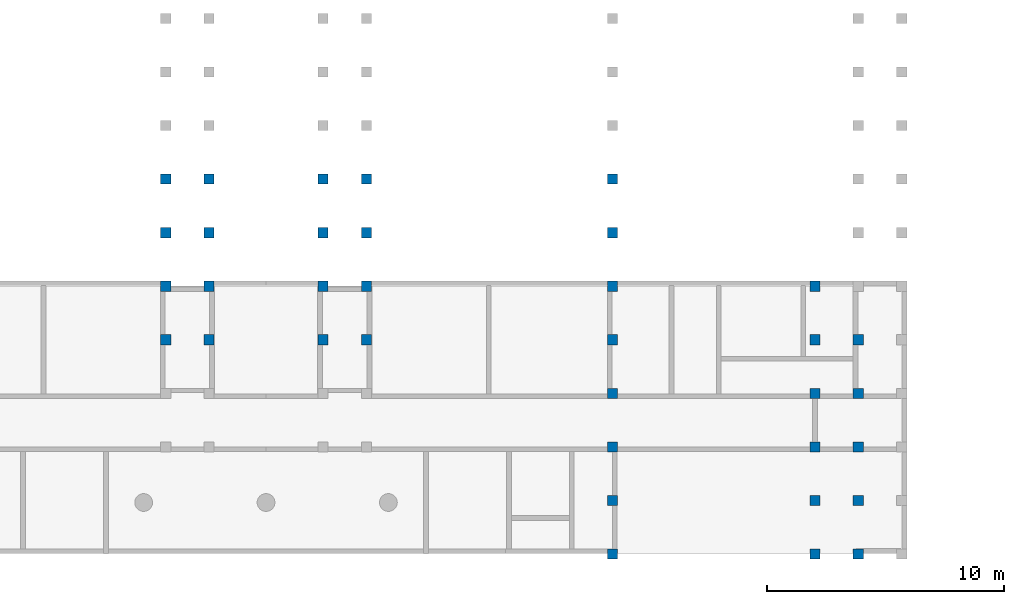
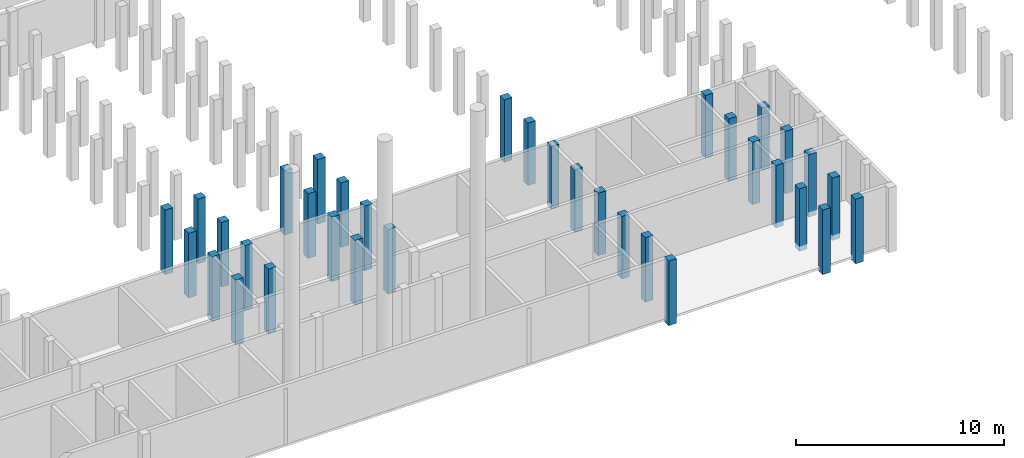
# One storey, part 3 of 9: 35 columns.
"""IFC2X3 building model written with IfcOpenShell, lengths in millimetres."""

from ifc_helpers import new_model, entity, si_unit, converted_unit, derived_unit, direction, frame, frame_2d, origin, origin_2d_with_axis, place, context, subcontext, project, spatial, rectangle, extrude, source, transform, mapped, material, type_object, type_shapes, element, save


model = new_model("IFC2X3")

# Units and contexts
model_context = context("Model", 3, precision=0.01, world=origin(), true_north=direction((6.12303176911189e-17, 1.0)))
body_context = subcontext(model_context, "Body", "Model", "MODEL_VIEW")
ifc_project = project(units=[si_unit("LENGTHUNIT", "METRE", prefix="MILLI"), si_unit("AREAUNIT", "SQUARE_METRE"), si_unit("VOLUMEUNIT", "CUBIC_METRE"), converted_unit("PLANEANGLEUNIT", "DEGREE", entity("IfcRatioMeasure", 0.0174532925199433), si_unit("PLANEANGLEUNIT", "RADIAN"), dimensions=[0, 0, 0, 0, 0, 0, 0]), si_unit("MASSUNIT", "GRAM", prefix="KILO"), derived_unit("MASSDENSITYUNIT", [(si_unit("MASSUNIT", "GRAM", prefix="KILO"), 1), (si_unit("LENGTHUNIT", "METRE"), -3)]), derived_unit("MOMENTOFINERTIAUNIT", [(si_unit("LENGTHUNIT", "METRE"), 4)]), si_unit("TIMEUNIT", "SECOND"), si_unit("FREQUENCYUNIT", "HERTZ"), si_unit("THERMODYNAMICTEMPERATUREUNIT", "DEGREE_CELSIUS"), derived_unit("THERMALTRANSMITTANCEUNIT", [(si_unit("MASSUNIT", "GRAM", prefix="KILO"), 1), (si_unit("THERMODYNAMICTEMPERATUREUNIT", "KELVIN"), -1), (si_unit("TIMEUNIT", "SECOND"), -3)]), derived_unit("VOLUMETRICFLOWRATEUNIT", [(si_unit("LENGTHUNIT", "METRE"), 3), (si_unit("TIMEUNIT", "SECOND"), -1)]), si_unit("ELECTRICCURRENTUNIT", "AMPERE"), si_unit("ELECTRICVOLTAGEUNIT", "VOLT"), si_unit("POWERUNIT", "WATT"), si_unit("FORCEUNIT", "NEWTON", prefix="KILO"), si_unit("ILLUMINANCEUNIT", "LUX"), si_unit("LUMINOUSFLUXUNIT", "LUMEN"), si_unit("LUMINOUSINTENSITYUNIT", "CANDELA"), derived_unit("USERDEFINED", [(si_unit("MASSUNIT", "GRAM", prefix="KILO"), -1), (si_unit("LENGTHUNIT", "METRE"), -2), (si_unit("TIMEUNIT", "SECOND"), 3), (si_unit("LUMINOUSFLUXUNIT", "LUMEN"), 1)]), derived_unit("LINEARVELOCITYUNIT", [(si_unit("LENGTHUNIT", "METRE"), 1), (si_unit("TIMEUNIT", "SECOND"), -1)]), si_unit("PRESSUREUNIT", "PASCAL"), derived_unit("USERDEFINED", [(si_unit("LENGTHUNIT", "METRE"), -2), (si_unit("MASSUNIT", "GRAM", prefix="KILO"), 1), (si_unit("TIMEUNIT", "SECOND"), -2)]), derived_unit("LINEARFORCEUNIT", [(si_unit("MASSUNIT", "GRAM", prefix="KILO"), 1), (si_unit("LENGTHUNIT", "METRE"), 1), (si_unit("TIMEUNIT", "SECOND"), -2), (si_unit("LENGTHUNIT", "METRE"), -1)]), derived_unit("PLANARFORCEUNIT", [(si_unit("MASSUNIT", "GRAM", prefix="KILO"), 1), (si_unit("LENGTHUNIT", "METRE"), 1), (si_unit("TIMEUNIT", "SECOND"), -2), (si_unit("LENGTHUNIT", "METRE"), -2)])], contexts=[model_context])

# Site, building, storey
site_placement = place(None, frame((10627.5135316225, 21939.0796949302, 0.0)))
site = spatial("IfcSite", under=ifc_project, at=site_placement, Name="Default", CompositionType="ELEMENT")
building_placement = place(site_placement, origin())
building = spatial("IfcBuilding", under=site, at=building_placement, CompositionType="ELEMENT")
storey_placement = place(building_placement, frame((0.0, 0.0, -3500.0)))
storey = spatial("IfcBuildingStorey", under=building, at=storey_placement, Name="R-1", CompositionType="ELEMENT", Elevation=-3500.0)

# Columns
ifc_material = material(Name="Concrete, Precast Smooth, Light Grey")
column_type_1 = type_object("IfcColumnType", Name="M_Precast-Square Column:430x430", PredefinedType="COLUMN", material=ifc_material)
shared_shape_1 = source(origin(), body_context, "Body", "SweptSolid", [
    extrude(rectangle(XDim=430.0, YDim=429.999999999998, at=origin_2d_with_axis()), frame((22342.4864683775, -6119.07969493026, -3800.0), z_axis=(0.0, 0.0, 1.0), x_axis=(0.0, -1.0, 0.0)), (0.0, 0.0, 1.0), 3800.0),
])
type_shapes(column_type_1, [shared_shape_1])
column_1_placement = place(storey_placement, frame((0.0, 0.0, 3500.0)))
element("IfcColumn", 1, at=column_1_placement, inside=storey, type_object=column_type_1, material=ifc_material, Name="M_Precast-Square Column:430x430", ObjectType="M_Precast-Square Column:430x430", context=body_context, shape_type="MappedRepresentation", body=[
    mapped(shared_shape_1, transform((0.0, 0.0, 0.0), scale=1.0)),
])
column_type_2 = type_object("IfcColumnType", Name="M_Precast-Square Column:430x430", PredefinedType="COLUMN", material=ifc_material)
shared_shape_2 = source(origin(), body_context, "Body", "SweptSolid", [
    extrude(rectangle(XDim=430.0, YDim=429.999999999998, at=origin_2d_with_axis()), frame((24172.4864683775, -6119.07969493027, -3800.0), z_axis=(0.0, 0.0, 1.0), x_axis=(0.0, -1.0, 0.0)), (0.0, 0.0, 1.0), 3800.0),
])
type_shapes(column_type_2, [shared_shape_2])
column_2_placement = place(storey_placement, frame((0.0, 0.0, 3500.0)))
element("IfcColumn", 2, at=column_2_placement, inside=storey, type_object=column_type_2, material=ifc_material, Name="M_Precast-Square Column:430x430", ObjectType="M_Precast-Square Column:430x430", context=body_context, shape_type="MappedRepresentation", body=[
    mapped(shared_shape_2, transform((0.0, 0.0, 0.0), scale=1.0)),
])
column_type_3 = type_object("IfcColumnType", Name="M_Precast-Square Column:430x430", PredefinedType="COLUMN", material=ifc_material)
shared_shape_3 = source(origin(), body_context, "Body", "SweptSolid", [
    extrude(rectangle(XDim=430.0, YDim=429.999999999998, at=origin_2d_with_axis()), frame((22342.4864683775, -8379.07969493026, -3800.0), z_axis=(0.0, 0.0, 1.0), x_axis=(0.0, -1.0, 0.0)), (0.0, 0.0, 1.0), 3800.0),
])
type_shapes(column_type_3, [shared_shape_3])
column_3_placement = place(storey_placement, frame((0.0, 0.0, 3500.0)))
element("IfcColumn", 3, at=column_3_placement, inside=storey, type_object=column_type_3, material=ifc_material, Name="M_Precast-Square Column:430x430", ObjectType="M_Precast-Square Column:430x430", context=body_context, shape_type="MappedRepresentation", body=[
    mapped(shared_shape_3, transform((0.0, 0.0, 0.0), scale=1.0)),
])
column_type_4 = type_object("IfcColumnType", Name="M_Precast-Square Column:430x430", PredefinedType="COLUMN", material=ifc_material)
shared_shape_4 = source(origin(), body_context, "Body", "SweptSolid", [
    extrude(rectangle(XDim=430.0, YDim=429.999999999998, at=origin_2d_with_axis()), frame((24172.4864683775, -8379.07969493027, -3800.0), z_axis=(0.0, 0.0, 1.0), x_axis=(0.0, -1.0, 0.0)), (0.0, 0.0, 1.0), 3800.0),
])
type_shapes(column_type_4, [shared_shape_4])
column_4_placement = place(storey_placement, frame((0.0, 0.0, 3500.0)))
element("IfcColumn", 4, at=column_4_placement, inside=storey, type_object=column_type_4, material=ifc_material, Name="M_Precast-Square Column:430x430", ObjectType="M_Precast-Square Column:430x430", context=body_context, shape_type="MappedRepresentation", body=[
    mapped(shared_shape_4, transform((0.0, 0.0, 0.0), scale=1.0)),
])
column_type_5 = type_object("IfcColumnType", Name="M_Precast-Square Column:430x430", PredefinedType="COLUMN", material=ifc_material)
shared_shape_5 = source(origin(), body_context, "Body", "SweptSolid", [
    extrude(rectangle(XDim=430.0, YDim=429.999999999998, at=frame_2d((2.1600499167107e-12, 0.0), x_axis=(1.0, 0.0))), frame((22342.4864683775, -10639.0796949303, -3800.0), z_axis=(0.0, 0.0, 1.0), x_axis=(0.0, -1.0, 0.0)), (0.0, 0.0, 1.0), 3800.0),
])
type_shapes(column_type_5, [shared_shape_5])
column_5_placement = place(storey_placement, frame((0.0, 0.0, 3500.0)))
element("IfcColumn", 5, at=column_5_placement, inside=storey, type_object=column_type_5, material=ifc_material, Name="M_Precast-Square Column:430x430", ObjectType="M_Precast-Square Column:430x430", context=body_context, shape_type="MappedRepresentation", body=[
    mapped(shared_shape_5, transform((0.0, 0.0, 0.0), scale=1.0)),
])
column_type_6 = type_object("IfcColumnType", Name="M_Precast-Square Column:430x430", PredefinedType="COLUMN", material=ifc_material)
shared_shape_6 = source(origin(), body_context, "Body", "SweptSolid", [
    extrude(rectangle(XDim=430.0, YDim=429.999999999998, at=origin_2d_with_axis()), frame((24172.4864683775, -10639.0796949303, -3800.0), z_axis=(0.0, 0.0, 1.0), x_axis=(0.0, -1.0, 0.0)), (0.0, 0.0, 1.0), 3800.0),
])
type_shapes(column_type_6, [shared_shape_6])
column_6_placement = place(storey_placement, frame((0.0, 0.0, 3500.0)))
element("IfcColumn", 6, at=column_6_placement, inside=storey, type_object=column_type_6, material=ifc_material, Name="M_Precast-Square Column:430x430", ObjectType="M_Precast-Square Column:430x430", context=body_context, shape_type="MappedRepresentation", body=[
    mapped(shared_shape_6, transform((0.0, 0.0, 0.0), scale=1.0)),
])
column_type_7 = type_object("IfcColumnType", Name="M_Precast-Square Column:430x430", PredefinedType="COLUMN", material=ifc_material)
shared_shape_7 = source(origin(), body_context, "Body", "SweptSolid", [
    extrude(rectangle(XDim=430.0, YDim=429.999999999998, at=frame_2d((2.1600499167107e-12, 0.0), x_axis=(1.0, 0.0))), frame((22342.4864683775, -12899.0796949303, -3800.0), z_axis=(0.0, 0.0, 1.0), x_axis=(0.0, -1.0, 0.0)), (0.0, 0.0, 1.0), 3800.0),
])
type_shapes(column_type_7, [shared_shape_7])
column_7_placement = place(storey_placement, frame((0.0, 0.0, 3500.0)))
element("IfcColumn", 7, at=column_7_placement, inside=storey, type_object=column_type_7, material=ifc_material, Name="M_Precast-Square Column:430x430", ObjectType="M_Precast-Square Column:430x430", context=body_context, shape_type="MappedRepresentation", body=[
    mapped(shared_shape_7, transform((0.0, 0.0, 0.0), scale=1.0)),
])
column_type_8 = type_object("IfcColumnType", Name="M_Precast-Square Column:430x430", PredefinedType="COLUMN", material=ifc_material)
shared_shape_8 = source(origin(), body_context, "Body", "SweptSolid", [
    extrude(rectangle(XDim=430.0, YDim=429.999999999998, at=origin_2d_with_axis()), frame((24172.4864683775, -12899.0796949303, -3800.0), z_axis=(0.0, 0.0, 1.0), x_axis=(0.0, -1.0, 0.0)), (0.0, 0.0, 1.0), 3800.0),
])
type_shapes(column_type_8, [shared_shape_8])
column_8_placement = place(storey_placement, frame((0.0, 0.0, 3500.0)))
element("IfcColumn", 8, at=column_8_placement, inside=storey, type_object=column_type_8, material=ifc_material, Name="M_Precast-Square Column:430x430", ObjectType="M_Precast-Square Column:430x430", context=body_context, shape_type="MappedRepresentation", body=[
    mapped(shared_shape_8, transform((0.0, 0.0, 0.0), scale=1.0)),
])
column_type_9 = type_object("IfcColumnType", Name="M_Precast-Square Column:430x430", PredefinedType="COLUMN", material=ifc_material)
shared_shape_9 = source(origin(), body_context, "Body", "SweptSolid", [
    extrude(rectangle(XDim=430.0, YDim=430.000000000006, at=origin_2d_with_axis()), frame((41192.4864683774, -6119.07969493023, -3800.0), z_axis=(0.0, 0.0, 1.0), x_axis=(0.0, -1.0, 0.0)), (0.0, 0.0, 1.0), 3670.0),
])
type_shapes(column_type_9, [shared_shape_9])
column_9_placement = place(storey_placement, frame((0.0, 0.0, 3500.0)))
element("IfcColumn", 9, at=column_9_placement, inside=storey, type_object=column_type_9, material=ifc_material, Name="M_Precast-Square Column:430x430", ObjectType="M_Precast-Square Column:430x430", context=body_context, shape_type="MappedRepresentation", body=[
    mapped(shared_shape_9, transform((0.0, 0.0, 0.0), scale=1.0)),
])
column_type_10 = type_object("IfcColumnType", Name="M_Precast-Square Column:430x430", PredefinedType="COLUMN", material=ifc_material)
shared_shape_10 = source(origin(), body_context, "Body", "SweptSolid", [
    extrude(rectangle(XDim=430.0, YDim=429.999999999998, at=origin_2d_with_axis()), frame((30812.4864683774, -6119.07969493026, -3800.0), z_axis=(0.0, 0.0, 1.0), x_axis=(0.0, -1.0, 0.0)), (0.0, 0.0, 1.0), 3800.0),
])
type_shapes(column_type_10, [shared_shape_10])
column_10_placement = place(storey_placement, frame((0.0, 0.0, 3500.0)))
element("IfcColumn", 10, at=column_10_placement, inside=storey, type_object=column_type_10, material=ifc_material, Name="M_Precast-Square Column:430x430", ObjectType="M_Precast-Square Column:430x430", context=body_context, shape_type="MappedRepresentation", body=[
    mapped(shared_shape_10, transform((0.0, 0.0, 0.0), scale=1.0)),
])
column_type_11 = type_object("IfcColumnType", Name="M_Precast-Square Column:430x430", PredefinedType="COLUMN", material=ifc_material)
shared_shape_11 = source(origin(), body_context, "Body", "SweptSolid", [
    extrude(rectangle(XDim=430.0, YDim=429.999999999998, at=origin_2d_with_axis()), frame((28982.4864683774, -6119.07969493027, -3800.0), z_axis=(0.0, 0.0, 1.0), x_axis=(0.0, -1.0, 0.0)), (0.0, 0.0, 1.0), 3800.0),
])
type_shapes(column_type_11, [shared_shape_11])
column_11_placement = place(storey_placement, frame((0.0, 0.0, 3500.0)))
element("IfcColumn", 11, at=column_11_placement, inside=storey, type_object=column_type_11, material=ifc_material, Name="M_Precast-Square Column:430x430", ObjectType="M_Precast-Square Column:430x430", context=body_context, shape_type="MappedRepresentation", body=[
    mapped(shared_shape_11, transform((0.0, 0.0, 0.0), scale=1.0)),
])
column_type_12 = type_object("IfcColumnType", Name="M_Precast-Square Column:430x430", PredefinedType="COLUMN", material=ifc_material)
shared_shape_12 = source(origin(), body_context, "Body", "SweptSolid", [
    extrude(rectangle(XDim=430.0, YDim=430.000000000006, at=frame_2d((0.0, -8.66862137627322e-12), x_axis=(1.0, 0.0))), frame((41192.4864683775, -8379.07969493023, -3800.0), z_axis=(0.0, 0.0, 1.0), x_axis=(0.0, -1.0, 0.0)), (0.0, 0.0, 1.0), 3670.0),
])
type_shapes(column_type_12, [shared_shape_12])
column_12_placement = place(storey_placement, frame((0.0, 0.0, 3500.0)))
element("IfcColumn", 12, at=column_12_placement, inside=storey, type_object=column_type_12, material=ifc_material, Name="M_Precast-Square Column:430x430", ObjectType="M_Precast-Square Column:430x430", context=body_context, shape_type="MappedRepresentation", body=[
    mapped(shared_shape_12, transform((0.0, 0.0, 0.0), scale=1.0)),
])
column_type_13 = type_object("IfcColumnType", Name="M_Precast-Square Column:430x430", PredefinedType="COLUMN", material=ifc_material)
shared_shape_13 = source(origin(), body_context, "Body", "SweptSolid", [
    extrude(rectangle(XDim=430.0, YDim=429.999999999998, at=origin_2d_with_axis()), frame((30812.4864683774, -8379.07969493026, -3800.0), z_axis=(0.0, 0.0, 1.0), x_axis=(0.0, -1.0, 0.0)), (0.0, 0.0, 1.0), 3800.0),
])
type_shapes(column_type_13, [shared_shape_13])
column_13_placement = place(storey_placement, frame((0.0, 0.0, 3500.0)))
element("IfcColumn", 13, at=column_13_placement, inside=storey, type_object=column_type_13, material=ifc_material, Name="M_Precast-Square Column:430x430", ObjectType="M_Precast-Square Column:430x430", context=body_context, shape_type="MappedRepresentation", body=[
    mapped(shared_shape_13, transform((0.0, 0.0, 0.0), scale=1.0)),
])
column_type_14 = type_object("IfcColumnType", Name="M_Precast-Square Column:430x430", PredefinedType="COLUMN", material=ifc_material)
shared_shape_14 = source(origin(), body_context, "Body", "SweptSolid", [
    extrude(rectangle(XDim=430.0, YDim=429.999999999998, at=origin_2d_with_axis()), frame((28982.4864683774, -8379.07969493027, -3800.0), z_axis=(0.0, 0.0, 1.0), x_axis=(0.0, -1.0, 0.0)), (0.0, 0.0, 1.0), 3800.0),
])
type_shapes(column_type_14, [shared_shape_14])
column_14_placement = place(storey_placement, frame((0.0, 0.0, 3500.0)))
element("IfcColumn", 14, at=column_14_placement, inside=storey, type_object=column_type_14, material=ifc_material, Name="M_Precast-Square Column:430x430", ObjectType="M_Precast-Square Column:430x430", context=body_context, shape_type="MappedRepresentation", body=[
    mapped(shared_shape_14, transform((0.0, 0.0, 0.0), scale=1.0)),
])
column_type_15 = type_object("IfcColumnType", Name="M_Precast-Square Column:430x430", PredefinedType="COLUMN", material=ifc_material)
shared_shape_15 = source(origin(), body_context, "Body", "SweptSolid", [
    extrude(rectangle(XDim=430.0, YDim=430.000000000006, at=frame_2d((-1.08002495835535e-12, -8.66862137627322e-12), x_axis=(1.0, 0.0))), frame((49742.4864683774, -10639.0796949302, -3800.0), z_axis=(0.0, 0.0, 1.0), x_axis=(0.0, -1.0, 0.0)), (0.0, 0.0, 1.0), 3670.0),
])
type_shapes(column_type_15, [shared_shape_15])
column_15_placement = place(storey_placement, frame((0.0, 0.0, 3500.0)))
element("IfcColumn", 15, at=column_15_placement, inside=storey, type_object=column_type_15, material=ifc_material, Name="M_Precast-Square Column:430x430", ObjectType="M_Precast-Square Column:430x430", context=body_context, shape_type="MappedRepresentation", body=[
    mapped(shared_shape_15, transform((0.0, 0.0, 0.0), scale=1.0)),
])
column_type_16 = type_object("IfcColumnType", Name="M_Precast-Square Column:430x430", PredefinedType="COLUMN", material=ifc_material)
shared_shape_16 = source(origin(), body_context, "Body", "SweptSolid", [
    extrude(rectangle(XDim=430.0, YDim=430.000000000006, at=frame_2d((-1.08002495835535e-12, -8.66862137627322e-12), x_axis=(1.0, 0.0))), frame((41192.4864683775, -10639.0796949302, -3800.0), z_axis=(0.0, 0.0, 1.0), x_axis=(0.0, -1.0, 0.0)), (0.0, 0.0, 1.0), 3670.0),
])
type_shapes(column_type_16, [shared_shape_16])
column_16_placement = place(storey_placement, frame((0.0, 0.0, 3500.0)))
element("IfcColumn", 16, at=column_16_placement, inside=storey, type_object=column_type_16, material=ifc_material, Name="M_Precast-Square Column:430x430", ObjectType="M_Precast-Square Column:430x430", context=body_context, shape_type="MappedRepresentation", body=[
    mapped(shared_shape_16, transform((0.0, 0.0, 0.0), scale=1.0)),
])
column_type_17 = type_object("IfcColumnType", Name="M_Precast-Square Column:430x430", PredefinedType="COLUMN", material=ifc_material)
shared_shape_17 = source(origin(), body_context, "Body", "SweptSolid", [
    extrude(rectangle(XDim=430.0, YDim=429.999999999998, at=frame_2d((-1.08002495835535e-12, 0.0), x_axis=(1.0, 0.0))), frame((30812.4864683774, -10639.0796949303, -3800.0), z_axis=(0.0, 0.0, 1.0), x_axis=(0.0, -1.0, 0.0)), (0.0, 0.0, 1.0), 3800.0),
])
type_shapes(column_type_17, [shared_shape_17])
column_17_placement = place(storey_placement, frame((0.0, 0.0, 3500.0)))
element("IfcColumn", 17, at=column_17_placement, inside=storey, type_object=column_type_17, material=ifc_material, Name="M_Precast-Square Column:430x430", ObjectType="M_Precast-Square Column:430x430", context=body_context, shape_type="MappedRepresentation", body=[
    mapped(shared_shape_17, transform((0.0, 0.0, 0.0), scale=1.0)),
])
column_type_18 = type_object("IfcColumnType", Name="M_Precast-Square Column:430x430", PredefinedType="COLUMN", material=ifc_material)
shared_shape_18 = source(origin(), body_context, "Body", "SweptSolid", [
    extrude(rectangle(XDim=430.0, YDim=429.999999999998, at=frame_2d((-1.08002495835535e-12, 0.0), x_axis=(1.0, 0.0))), frame((28982.4864683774, -10639.0796949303, -3800.0), z_axis=(0.0, 0.0, 1.0), x_axis=(0.0, -1.0, 0.0)), (0.0, 0.0, 1.0), 3800.0),
])
type_shapes(column_type_18, [shared_shape_18])
column_18_placement = place(storey_placement, frame((0.0, 0.0, 3500.0)))
element("IfcColumn", 18, at=column_18_placement, inside=storey, type_object=column_type_18, material=ifc_material, Name="M_Precast-Square Column:430x430", ObjectType="M_Precast-Square Column:430x430", context=body_context, shape_type="MappedRepresentation", body=[
    mapped(shared_shape_18, transform((0.0, 0.0, 0.0), scale=1.0)),
])
column_type_19 = type_object("IfcColumnType", Name="M_Precast-Square Column:430x430", PredefinedType="COLUMN", material=ifc_material)
shared_shape_19 = source(origin(), body_context, "Body", "SweptSolid", [
    extrude(rectangle(XDim=430.0, YDim=430.000000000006, at=frame_2d((-1.08002495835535e-12, 0.0), x_axis=(1.0, 0.0))), frame((51572.4864683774, -12899.0796949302, -3800.0), z_axis=(0.0, 0.0, 1.0), x_axis=(0.0, -1.0, 0.0)), (0.0, 0.0, 1.0), 3670.0),
])
type_shapes(column_type_19, [shared_shape_19])
column_19_placement = place(storey_placement, frame((0.0, 0.0, 3500.0)))
element("IfcColumn", 19, at=column_19_placement, inside=storey, type_object=column_type_19, material=ifc_material, Name="M_Precast-Square Column:430x430", ObjectType="M_Precast-Square Column:430x430", context=body_context, shape_type="MappedRepresentation", body=[
    mapped(shared_shape_19, transform((0.0, 0.0, 0.0), scale=1.0)),
])
column_type_20 = type_object("IfcColumnType", Name="M_Precast-Square Column:430x430", PredefinedType="COLUMN", material=ifc_material)
shared_shape_20 = source(origin(), body_context, "Body", "SweptSolid", [
    extrude(rectangle(XDim=430.0, YDim=430.000000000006, at=frame_2d((-1.08002495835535e-12, 0.0), x_axis=(1.0, 0.0))), frame((49742.4864683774, -12899.0796949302, -3800.0), z_axis=(0.0, 0.0, 1.0), x_axis=(0.0, -1.0, 0.0)), (0.0, 0.0, 1.0), 3670.0),
])
type_shapes(column_type_20, [shared_shape_20])
column_20_placement = place(storey_placement, frame((0.0, 0.0, 3500.0)))
element("IfcColumn", 20, at=column_20_placement, inside=storey, type_object=column_type_20, material=ifc_material, Name="M_Precast-Square Column:430x430", ObjectType="M_Precast-Square Column:430x430", context=body_context, shape_type="MappedRepresentation", body=[
    mapped(shared_shape_20, transform((0.0, 0.0, 0.0), scale=1.0)),
])
column_type_21 = type_object("IfcColumnType", Name="M_Precast-Square Column:430x430", PredefinedType="COLUMN", material=ifc_material)
shared_shape_21 = source(origin(), body_context, "Body", "SweptSolid", [
    extrude(rectangle(XDim=430.0, YDim=430.000000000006, at=frame_2d((-1.08002495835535e-12, 0.0), x_axis=(1.0, 0.0))), frame((41192.4864683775, -12899.0796949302, -3800.0), z_axis=(0.0, 0.0, 1.0), x_axis=(0.0, -1.0, 0.0)), (0.0, 0.0, 1.0), 3670.0),
])
type_shapes(column_type_21, [shared_shape_21])
column_21_placement = place(storey_placement, frame((0.0, 0.0, 3500.0)))
element("IfcColumn", 21, at=column_21_placement, inside=storey, type_object=column_type_21, material=ifc_material, Name="M_Precast-Square Column:430x430", ObjectType="M_Precast-Square Column:430x430", context=body_context, shape_type="MappedRepresentation", body=[
    mapped(shared_shape_21, transform((0.0, 0.0, 0.0), scale=1.0)),
])
column_type_22 = type_object("IfcColumnType", Name="M_Precast-Square Column:430x430", PredefinedType="COLUMN", material=ifc_material)
shared_shape_22 = source(origin(), body_context, "Body", "SweptSolid", [
    extrude(rectangle(XDim=430.0, YDim=429.999999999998, at=frame_2d((-1.08002495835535e-12, 0.0), x_axis=(1.0, 0.0))), frame((30812.4864683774, -12899.0796949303, -3800.0), z_axis=(0.0, 0.0, 1.0), x_axis=(0.0, -1.0, 0.0)), (0.0, 0.0, 1.0), 3800.0),
])
type_shapes(column_type_22, [shared_shape_22])
column_22_placement = place(storey_placement, frame((0.0, 0.0, 3500.0)))
element("IfcColumn", 22, at=column_22_placement, inside=storey, type_object=column_type_22, material=ifc_material, Name="M_Precast-Square Column:430x430", ObjectType="M_Precast-Square Column:430x430", context=body_context, shape_type="MappedRepresentation", body=[
    mapped(shared_shape_22, transform((0.0, 0.0, 0.0), scale=1.0)),
])
column_type_23 = type_object("IfcColumnType", Name="M_Precast-Square Column:430x430", PredefinedType="COLUMN", material=ifc_material)
shared_shape_23 = source(origin(), body_context, "Body", "SweptSolid", [
    extrude(rectangle(XDim=430.0, YDim=429.999999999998, at=frame_2d((-1.08002495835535e-12, 0.0), x_axis=(1.0, 0.0))), frame((28982.4864683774, -12899.0796949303, -3800.0), z_axis=(0.0, 0.0, 1.0), x_axis=(0.0, -1.0, 0.0)), (0.0, 0.0, 1.0), 3800.0),
])
type_shapes(column_type_23, [shared_shape_23])
column_23_placement = place(storey_placement, frame((0.0, 0.0, 3500.0)))
element("IfcColumn", 23, at=column_23_placement, inside=storey, type_object=column_type_23, material=ifc_material, Name="M_Precast-Square Column:430x430", ObjectType="M_Precast-Square Column:430x430", context=body_context, shape_type="MappedRepresentation", body=[
    mapped(shared_shape_23, transform((0.0, 0.0, 0.0), scale=1.0)),
])
column_type_24 = type_object("IfcColumnType", Name="M_Precast-Square Column:430x430", PredefinedType="COLUMN", material=ifc_material)
shared_shape_24 = source(origin(), body_context, "Body", "SweptSolid", [
    extrude(rectangle(XDim=430.0, YDim=430.000000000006, at=frame_2d((-1.08002495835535e-12, 0.0), x_axis=(1.0, 0.0))), frame((51572.4864683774, -15159.0796949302, -3800.0), z_axis=(0.0, 0.0, 1.0), x_axis=(0.0, -1.0, 0.0)), (0.0, 0.0, 1.0), 3670.0),
])
type_shapes(column_type_24, [shared_shape_24])
column_24_placement = place(storey_placement, frame((0.0, 0.0, 3500.0)))
element("IfcColumn", 24, at=column_24_placement, inside=storey, type_object=column_type_24, material=ifc_material, Name="M_Precast-Square Column:430x430", ObjectType="M_Precast-Square Column:430x430", context=body_context, shape_type="MappedRepresentation", body=[
    mapped(shared_shape_24, transform((0.0, 0.0, 0.0), scale=1.0)),
])
column_type_25 = type_object("IfcColumnType", Name="M_Precast-Square Column:430x430", PredefinedType="COLUMN", material=ifc_material)
shared_shape_25 = source(origin(), body_context, "Body", "SweptSolid", [
    extrude(rectangle(XDim=430.0, YDim=430.000000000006, at=frame_2d((1.08002495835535e-12, 0.0), x_axis=(1.0, 0.0))), frame((49742.4864683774, -15159.0796949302, -3800.0), z_axis=(0.0, 0.0, 1.0), x_axis=(0.0, -1.0, 0.0)), (0.0, 0.0, 1.0), 3670.0),
])
type_shapes(column_type_25, [shared_shape_25])
column_25_placement = place(storey_placement, frame((0.0, 0.0, 3500.0)))
element("IfcColumn", 25, at=column_25_placement, inside=storey, type_object=column_type_25, material=ifc_material, Name="M_Precast-Square Column:430x430", ObjectType="M_Precast-Square Column:430x430", context=body_context, shape_type="MappedRepresentation", body=[
    mapped(shared_shape_25, transform((0.0, 0.0, 0.0), scale=1.0)),
])
column_type_26 = type_object("IfcColumnType", Name="M_Precast-Square Column:430x430", PredefinedType="COLUMN", material=ifc_material)
shared_shape_26 = source(origin(), body_context, "Body", "SweptSolid", [
    extrude(rectangle(XDim=430.0, YDim=430.000000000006, at=frame_2d((-1.08002495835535e-12, 0.0), x_axis=(1.0, 0.0))), frame((41192.4864683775, -15159.0796949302, -3800.0), z_axis=(0.0, 0.0, 1.0), x_axis=(0.0, -1.0, 0.0)), (0.0, 0.0, 1.0), 3670.0),
])
type_shapes(column_type_26, [shared_shape_26])
column_26_placement = place(storey_placement, frame((0.0, 0.0, 3500.0)))
element("IfcColumn", 26, at=column_26_placement, inside=storey, type_object=column_type_26, material=ifc_material, Name="M_Precast-Square Column:430x430", ObjectType="M_Precast-Square Column:430x430", context=body_context, shape_type="MappedRepresentation", body=[
    mapped(shared_shape_26, transform((0.0, 0.0, 0.0), scale=1.0)),
])
column_type_27 = type_object("IfcColumnType", Name="M_Precast-Square Column:430x430", PredefinedType="COLUMN", material=ifc_material)
shared_shape_27 = source(origin(), body_context, "Body", "SweptSolid", [
    extrude(rectangle(XDim=430.0, YDim=430.000000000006, at=frame_2d((1.08002495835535e-12, 0.0), x_axis=(1.0, 0.0))), frame((51572.4864683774, -17419.0796949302, -3800.0), z_axis=(0.0, 0.0, 1.0), x_axis=(0.0, -1.0, 0.0)), (0.0, 0.0, 1.0), 3670.0),
])
type_shapes(column_type_27, [shared_shape_27])
column_27_placement = place(storey_placement, frame((0.0, 0.0, 3500.0)))
element("IfcColumn", 27, at=column_27_placement, inside=storey, type_object=column_type_27, material=ifc_material, Name="M_Precast-Square Column:430x430", ObjectType="M_Precast-Square Column:430x430", context=body_context, shape_type="MappedRepresentation", body=[
    mapped(shared_shape_27, transform((0.0, 0.0, 0.0), scale=1.0)),
])
column_type_28 = type_object("IfcColumnType", Name="M_Precast-Square Column:430x430", PredefinedType="COLUMN", material=ifc_material)
shared_shape_28 = source(origin(), body_context, "Body", "SweptSolid", [
    extrude(rectangle(XDim=430.0, YDim=430.000000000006, at=frame_2d((-1.08002495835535e-12, 0.0), x_axis=(1.0, 0.0))), frame((49742.4864683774, -17419.0796949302, -3800.0), z_axis=(0.0, 0.0, 1.0), x_axis=(0.0, -1.0, 0.0)), (0.0, 0.0, 1.0), 3670.0),
])
type_shapes(column_type_28, [shared_shape_28])
column_28_placement = place(storey_placement, frame((0.0, 0.0, 3500.0)))
element("IfcColumn", 28, at=column_28_placement, inside=storey, type_object=column_type_28, material=ifc_material, Name="M_Precast-Square Column:430x430", ObjectType="M_Precast-Square Column:430x430", context=body_context, shape_type="MappedRepresentation", body=[
    mapped(shared_shape_28, transform((0.0, 0.0, 0.0), scale=1.0)),
])
column_type_29 = type_object("IfcColumnType", Name="M_Precast-Square Column:430x430", PredefinedType="COLUMN", material=ifc_material)
shared_shape_29 = source(origin(), body_context, "Body", "SweptSolid", [
    extrude(rectangle(XDim=430.0, YDim=430.000000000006, at=frame_2d((1.08002495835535e-12, 0.0), x_axis=(1.0, 0.0))), frame((41192.4864683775, -17419.0796949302, -3800.0), z_axis=(0.0, 0.0, 1.0), x_axis=(0.0, -1.0, 0.0)), (0.0, 0.0, 1.0), 3670.0),
])
type_shapes(column_type_29, [shared_shape_29])
column_29_placement = place(storey_placement, frame((0.0, 0.0, 3500.0)))
element("IfcColumn", 29, at=column_29_placement, inside=storey, type_object=column_type_29, material=ifc_material, Name="M_Precast-Square Column:430x430", ObjectType="M_Precast-Square Column:430x430", context=body_context, shape_type="MappedRepresentation", body=[
    mapped(shared_shape_29, transform((0.0, 0.0, 0.0), scale=1.0)),
])
column_type_30 = type_object("IfcColumnType", Name="M_Precast-Square Column:430x430", PredefinedType="COLUMN", material=ifc_material)
shared_shape_30 = source(origin(), body_context, "Body", "SweptSolid", [
    extrude(rectangle(XDim=430.0, YDim=430.000000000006, at=frame_2d((-1.08002495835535e-12, 0.0), x_axis=(1.0, 0.0))), frame((51572.4864683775, -19679.0796949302, -3800.0), z_axis=(0.0, 0.0, 1.0), x_axis=(0.0, -1.0, 0.0)), (0.0, 0.0, 1.0), 3670.0),
])
type_shapes(column_type_30, [shared_shape_30])
column_30_placement = place(storey_placement, frame((0.0, 0.0, 3500.0)))
element("IfcColumn", 30, at=column_30_placement, inside=storey, type_object=column_type_30, material=ifc_material, Name="M_Precast-Square Column:430x430", ObjectType="M_Precast-Square Column:430x430", context=body_context, shape_type="MappedRepresentation", body=[
    mapped(shared_shape_30, transform((0.0, 0.0, 0.0), scale=1.0)),
])
column_type_31 = type_object("IfcColumnType", Name="M_Precast-Square Column:430x430", PredefinedType="COLUMN", material=ifc_material)
shared_shape_31 = source(origin(), body_context, "Body", "SweptSolid", [
    extrude(rectangle(XDim=430.0, YDim=430.000000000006, at=frame_2d((-1.08002495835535e-12, 0.0), x_axis=(1.0, 0.0))), frame((49742.4864683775, -19679.0796949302, -3800.0), z_axis=(0.0, 0.0, 1.0), x_axis=(0.0, -1.0, 0.0)), (0.0, 0.0, 1.0), 3670.0),
])
type_shapes(column_type_31, [shared_shape_31])
column_31_placement = place(storey_placement, frame((0.0, 0.0, 3500.0)))
element("IfcColumn", 31, at=column_31_placement, inside=storey, type_object=column_type_31, material=ifc_material, Name="M_Precast-Square Column:430x430", ObjectType="M_Precast-Square Column:430x430", context=body_context, shape_type="MappedRepresentation", body=[
    mapped(shared_shape_31, transform((0.0, 0.0, 0.0), scale=1.0)),
])
column_type_32 = type_object("IfcColumnType", Name="M_Precast-Square Column:430x430", PredefinedType="COLUMN", material=ifc_material)
shared_shape_32 = source(origin(), body_context, "Body", "SweptSolid", [
    extrude(rectangle(XDim=430.0, YDim=430.000000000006, at=frame_2d((-1.08002495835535e-12, 0.0), x_axis=(1.0, 0.0))), frame((41192.4864683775, -19679.0796949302, -3800.0), z_axis=(0.0, 0.0, 1.0), x_axis=(0.0, -1.0, 0.0)), (0.0, 0.0, 1.0), 3800.0),
])
type_shapes(column_type_32, [shared_shape_32])
column_32_placement = place(storey_placement, frame((0.0, 0.0, 3500.0)))
element("IfcColumn", 32, at=column_32_placement, inside=storey, type_object=column_type_32, material=ifc_material, Name="M_Precast-Square Column:430x430", ObjectType="M_Precast-Square Column:430x430", context=body_context, shape_type="MappedRepresentation", body=[
    mapped(shared_shape_32, transform((0.0, 0.0, 0.0), scale=1.0)),
])
column_type_33 = type_object("IfcColumnType", Name="M_Precast-Square Column:430x430", PredefinedType="COLUMN", material=ifc_material)
shared_shape_33 = source(origin(), body_context, "Body", "SweptSolid", [
    extrude(rectangle(XDim=429.999999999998, YDim=430.000000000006, at=origin_2d_with_axis()), frame((51572.4864683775, -21939.0796949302, -3800.0), z_axis=(0.0, 0.0, 1.0), x_axis=(0.0, -1.0, 0.0)), (0.0, 0.0, 1.0), 3800.0),
])
type_shapes(column_type_33, [shared_shape_33])
column_33_placement = place(storey_placement, frame((0.0, 0.0, 3500.0)))
element("IfcColumn", 33, at=column_33_placement, inside=storey, type_object=column_type_33, material=ifc_material, Name="M_Precast-Square Column:430x430", ObjectType="M_Precast-Square Column:430x430", context=body_context, shape_type="MappedRepresentation", body=[
    mapped(shared_shape_33, transform((0.0, 0.0, 0.0), scale=1.0)),
])
column_type_34 = type_object("IfcColumnType", Name="M_Precast-Square Column:430x430", PredefinedType="COLUMN", material=ifc_material)
shared_shape_34 = source(origin(), body_context, "Body", "SweptSolid", [
    extrude(rectangle(XDim=429.999999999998, YDim=430.000000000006, at=origin_2d_with_axis()), frame((49742.4864683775, -21939.0796949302, -3800.0), z_axis=(0.0, 0.0, 1.0), x_axis=(0.0, -1.0, 0.0)), (0.0, 0.0, 1.0), 3800.0),
])
type_shapes(column_type_34, [shared_shape_34])
column_34_placement = place(storey_placement, frame((0.0, 0.0, 3500.0)))
element("IfcColumn", 34, at=column_34_placement, inside=storey, type_object=column_type_34, material=ifc_material, Name="M_Precast-Square Column:430x430", ObjectType="M_Precast-Square Column:430x430", context=body_context, shape_type="MappedRepresentation", body=[
    mapped(shared_shape_34, transform((0.0, 0.0, 0.0), scale=1.0)),
])
column_type_35 = type_object("IfcColumnType", Name="M_Precast-Square Column:430x430", PredefinedType="COLUMN", material=ifc_material)
shared_shape_35 = source(origin(), body_context, "Body", "SweptSolid", [
    extrude(rectangle(XDim=429.999999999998, YDim=430.000000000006, at=origin_2d_with_axis()), frame((41192.4864683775, -21939.0796949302, -3800.0), z_axis=(0.0, 0.0, 1.0), x_axis=(0.0, -1.0, 0.0)), (0.0, 0.0, 1.0), 3800.0),
])
type_shapes(column_type_35, [shared_shape_35])
column_35_placement = place(storey_placement, frame((0.0, 0.0, 3500.0)))
element("IfcColumn", 35, at=column_35_placement, inside=storey, type_object=column_type_35, material=ifc_material, Name="M_Precast-Square Column:430x430", ObjectType="M_Precast-Square Column:430x430", context=body_context, shape_type="MappedRepresentation", body=[
    mapped(shared_shape_35, transform((0.0, 0.0, 0.0), scale=1.0)),
])

save(model, "model.ifc")
